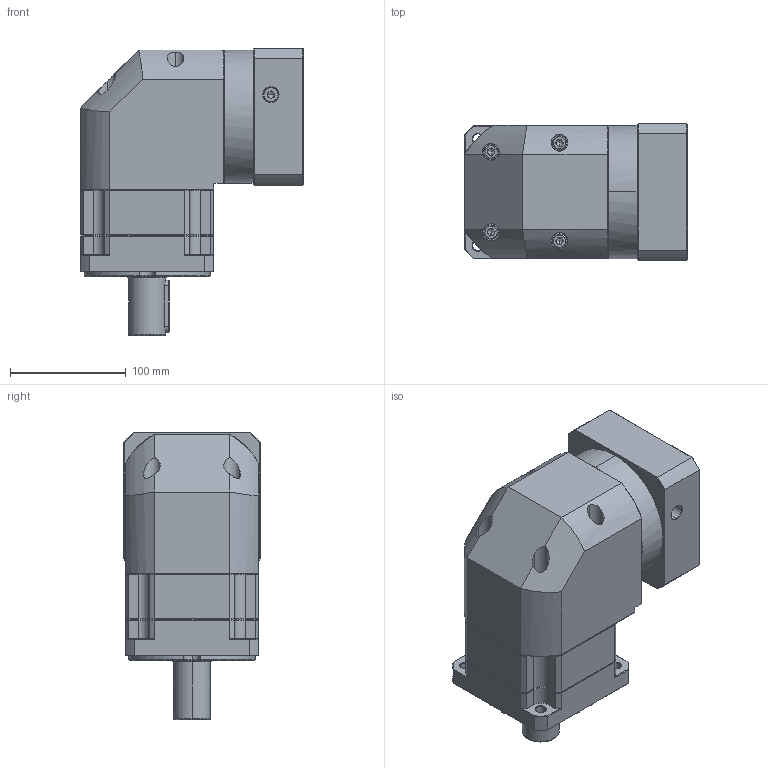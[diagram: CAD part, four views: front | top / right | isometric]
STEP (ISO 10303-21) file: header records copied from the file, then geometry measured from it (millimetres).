
FILE_DESCRIPTION (( 'STEP AP214' ), '1' );
FILE_NAME ('ZBR115A-D32-L1-P2-19-95-115-M8.step', '2023-08-26T12:36:09', ( '' ), ( '' ), 'SwSTEP 2.0', 'SolidWorks 2016', '' );
FILE_SCHEMA (( 'AUTOMOTIVE_DESIGN' ));
Length unit declared in the file: millimetre
Products named in the file (1): ZBR115A-D32-L1-P2-19-95-115-M8
Bounding box: 192.4 x 118 x 248 mm (x, y, z)
Volume: 2977767.6 mm3; surface area: 247438.8 mm2
Topology: 6 solids, 6 shells, 2379 faces, 6244 edges, 3969 vertices
Faces by surface type: plane 1139, cylinder 439, bspline 424, cone 369, torus 8
Entity records: 128375 total; most frequent: CARTESIAN_POINT 47179, ORIENTED_EDGE 12428, DIRECTION 9802, EDGE_CURVE 6214, LINE 3990, VECTOR 3990, VERTEX_POINT 3969, AXIS2_PLACEMENT_3D 2906
